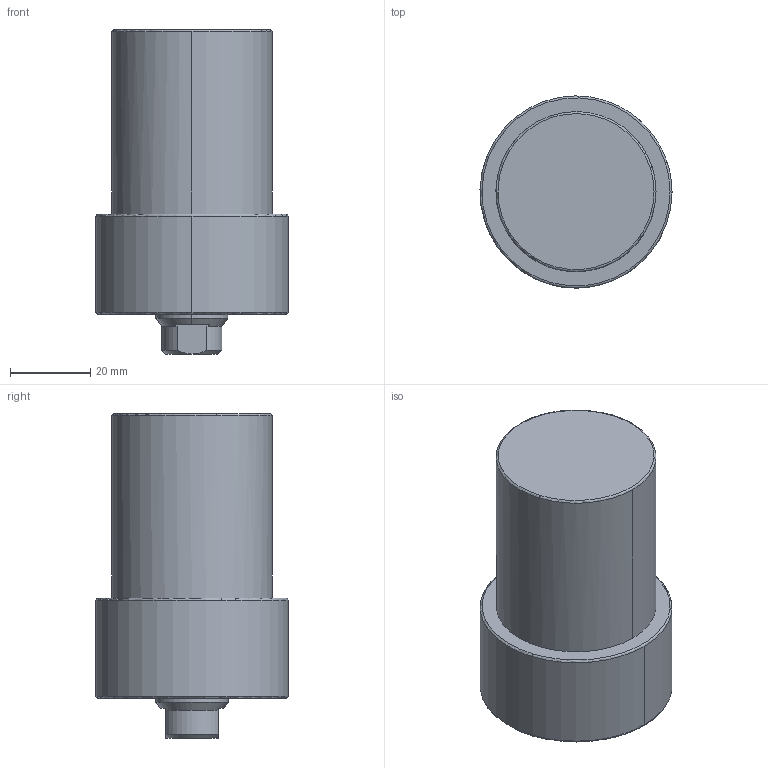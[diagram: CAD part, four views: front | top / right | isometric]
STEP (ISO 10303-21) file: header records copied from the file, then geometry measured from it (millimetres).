
FILE_DESCRIPTION((' '),'2;1');
FILE_NAME( 'TLLU-040GA-035.STEP.stp', '2025-10-24T16:37:10', (' '), ('--- Datakit www.datakit.com---'), ' Datakit CrossCadWare V2024.1 Dec 21 2023', 'Mastercam 2025', ' ');
FILE_SCHEMA(('AUTOMOTIVE_DESIGN { 1 0 10303 214 1 1 1 1 }'));
Length unit declared in the file: millimetre
Products named in the file (1): TLLU-040GA-035
Bounding box: 47.99 x 48 x 81 mm (x, y, z)
Volume: 103056.5 mm3; surface area: 14764.2 mm2
Topology: 1 solids, 1 shells, 62 faces, 180 edges, 119 vertices
Faces by surface type: cone 24, cylinder 22, plane 10, torus 6
Entity records: 2106 total; most frequent: DIRECTION 402, CARTESIAN_POINT 388, ORIENTED_EDGE 340, AXIS2_PLACEMENT_3D 177, EDGE_CURVE 170, VERTEX_POINT 119, CIRCLE 114, EDGE_LOOP 71
